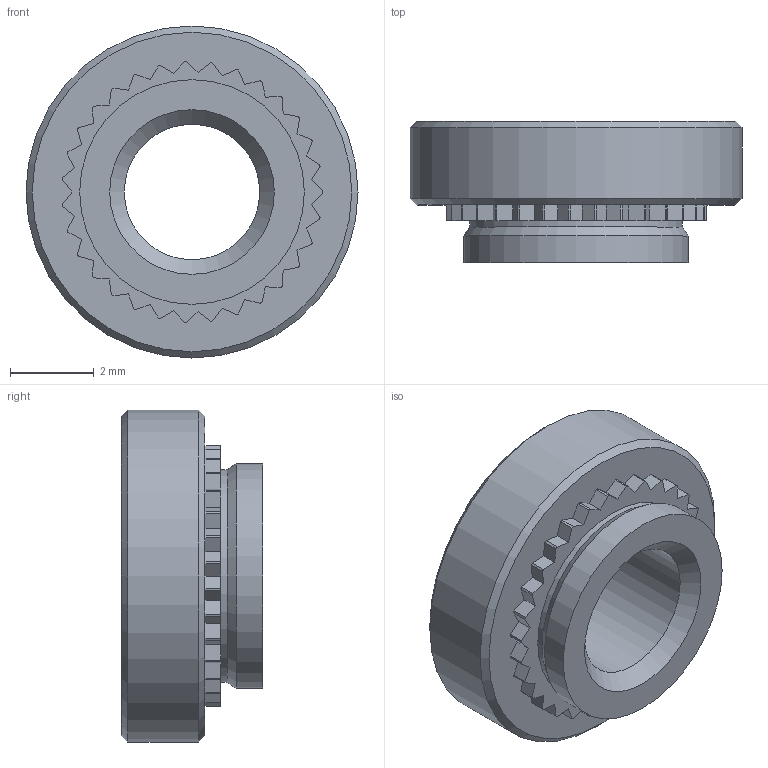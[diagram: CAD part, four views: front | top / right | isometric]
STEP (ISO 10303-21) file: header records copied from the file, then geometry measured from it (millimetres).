
FILE_DESCRIPTION(/* description */ (''),/* implementation_level */ '2;1');
FILE_NAME(/* name */ 'C:\Users\keval.kumar\Desktop\Fastit\Clinch nut\M4\Clinch Nut_M4_2.stp',/* time_stamp */ '2024-03-14T09:36:32+05:00',/* author */ ('keval.kumar'),/* organization */ (''),/* preprocessor_version */ 'ST-DEVELOPER v18.1',/* originating_system */ 'Autodesk Inventor 2022',/* authorisation */ '');
FILE_SCHEMA (('AUTOMOTIVE_DESIGN { 1 0 10303 214 3 1 1 }'));
Length unit declared in the file: millimetre
Products named in the file (1): Clinch Nut_M4_2
Bounding box: 7.95 x 3.38 x 7.95 mm (x, y, z)
Volume: 102.4 mm3; surface area: 188 mm2
Topology: 1 solids, 1 shells, 106 faces, 303 edges, 201 vertices
Faces by surface type: plane 66, cylinder 35, cone 5
Full cylindrical faces by diameter (mm): 3.242 x1, 5.1 x1, 5.38 x1, 7.95 x1
Entity records: 3507 total; most frequent: CARTESIAN_POINT 611, ORIENTED_EDGE 606, DIRECTION 594, EDGE_CURVE 303, LINE 226, VECTOR 226, VERTEX_POINT 201, AXIS2_PLACEMENT_3D 184
